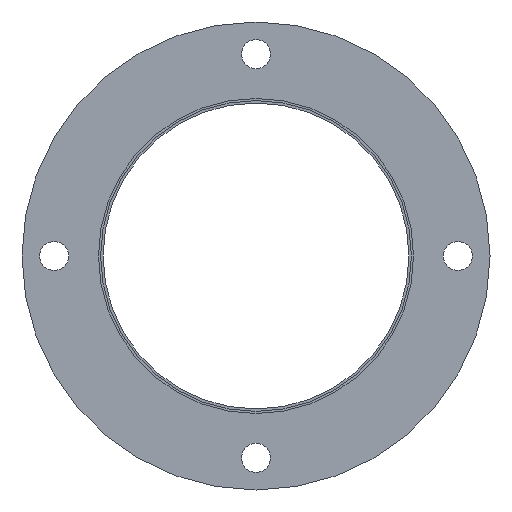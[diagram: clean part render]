
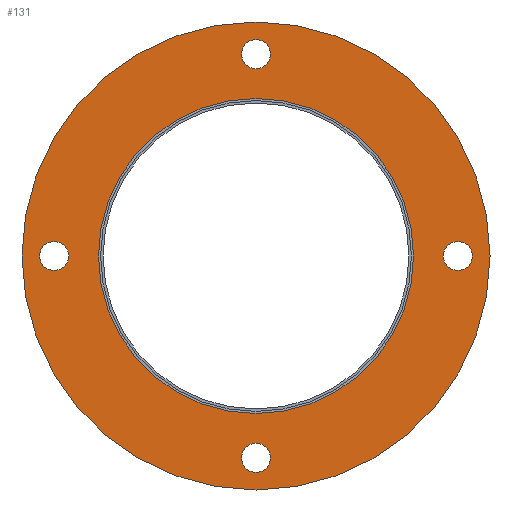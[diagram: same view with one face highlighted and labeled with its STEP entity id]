
A CAD part, front view. The second image highlights one B-rep face of the part: STEP entity #131.
In plain terms, the highlighted planar face has unit normal (0, -1, 0).
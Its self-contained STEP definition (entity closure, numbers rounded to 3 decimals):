
#131=ADVANCED_FACE('',(#183,#184,#185,#186,#187,#188),#146,.T.);
#146=PLANE('',#434);
#183=FACE_BOUND('',#237,.T.);
#184=FACE_BOUND('',#238,.T.);
#185=FACE_BOUND('',#239,.T.);
#186=FACE_BOUND('',#240,.T.);
#187=FACE_BOUND('',#241,.T.);
#188=FACE_BOUND('',#242,.T.);
#237=EDGE_LOOP('',(#291));
#238=EDGE_LOOP('',(#292));
#239=EDGE_LOOP('',(#293));
#240=EDGE_LOOP('',(#294));
#241=EDGE_LOOP('',(#295));
#242=EDGE_LOOP('',(#296));
#291=ORIENTED_EDGE('',*,*,#357,.F.);
#292=ORIENTED_EDGE('',*,*,#358,.F.);
#293=ORIENTED_EDGE('',*,*,#359,.F.);
#294=ORIENTED_EDGE('',*,*,#360,.F.);
#295=ORIENTED_EDGE('',*,*,#361,.F.);
#296=ORIENTED_EDGE('',*,*,#362,.F.);
#330=VERTEX_POINT('',#603);
#331=VERTEX_POINT('',#605);
#332=VERTEX_POINT('',#607);
#333=VERTEX_POINT('',#609);
#334=VERTEX_POINT('',#611);
#335=VERTEX_POINT('',#613);
#357=EDGE_CURVE('',#330,#330,#384,.T.);
#358=EDGE_CURVE('',#331,#331,#385,.T.);
#359=EDGE_CURVE('',#332,#332,#386,.T.);
#360=EDGE_CURVE('',#333,#333,#387,.T.);
#361=EDGE_CURVE('',#334,#334,#388,.T.);
#362=EDGE_CURVE('',#335,#335,#389,.T.);
#384=CIRCLE('',#428,4.75);
#385=CIRCLE('',#429,4.75);
#386=CIRCLE('',#430,4.75);
#387=CIRCLE('',#431,4.75);
#388=CIRCLE('',#432,51.5);
#389=CIRCLE('',#433,76.5);
#428=AXIS2_PLACEMENT_3D('',#602,#517,#518);
#429=AXIS2_PLACEMENT_3D('',#604,#519,#520);
#430=AXIS2_PLACEMENT_3D('',#606,#521,#522);
#431=AXIS2_PLACEMENT_3D('',#608,#523,#524);
#432=AXIS2_PLACEMENT_3D('',#610,#525,#526);
#433=AXIS2_PLACEMENT_3D('',#612,#527,#528);
#434=AXIS2_PLACEMENT_3D('',#614,#529,#530);
#517=DIRECTION('',(0.,-1.,0.));
#518=DIRECTION('',(0.,0.,-1.));
#519=DIRECTION('',(0.,-1.,0.));
#520=DIRECTION('',(0.,0.,-1.));
#521=DIRECTION('',(0.,-1.,0.));
#522=DIRECTION('',(0.,0.,-1.));
#523=DIRECTION('',(0.,-1.,0.));
#524=DIRECTION('',(0.,0.,-1.));
#525=DIRECTION('',(0.,-1.,0.));
#526=DIRECTION('',(0.,0.,-1.));
#527=DIRECTION('',(0.,1.,0.));
#528=DIRECTION('',(0.,0.,1.));
#529=DIRECTION('',(0.,-1.,0.));
#530=DIRECTION('',(0.,0.,-1.));
#602=CARTESIAN_POINT('',(0.,93.7,-66.));
#603=CARTESIAN_POINT('',(0.,93.7,-70.75));
#604=CARTESIAN_POINT('',(66.,93.7,0.));
#605=CARTESIAN_POINT('',(66.,93.7,-4.75));
#606=CARTESIAN_POINT('',(0.,93.7,66.));
#607=CARTESIAN_POINT('',(0.,93.7,61.25));
#608=CARTESIAN_POINT('',(-66.,93.7,0.));
#609=CARTESIAN_POINT('',(-66.,93.7,-4.75));
#610=CARTESIAN_POINT('',(0.,93.7,0.));
#611=CARTESIAN_POINT('',(0.,93.7,-51.5));
#612=CARTESIAN_POINT('',(0.,93.7,0.));
#613=CARTESIAN_POINT('',(0.,93.7,76.5));
#614=CARTESIAN_POINT('',(0.,93.7,0.));
